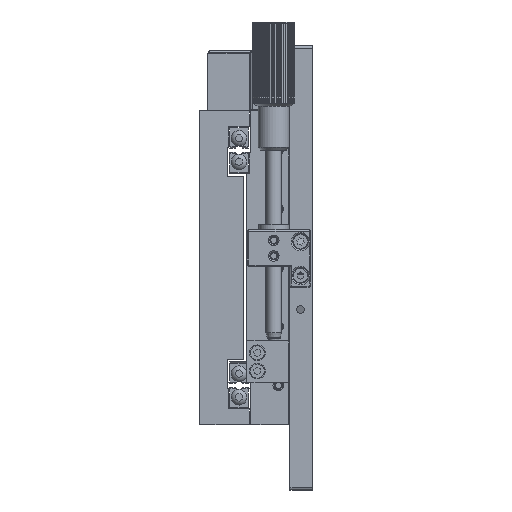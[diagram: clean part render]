
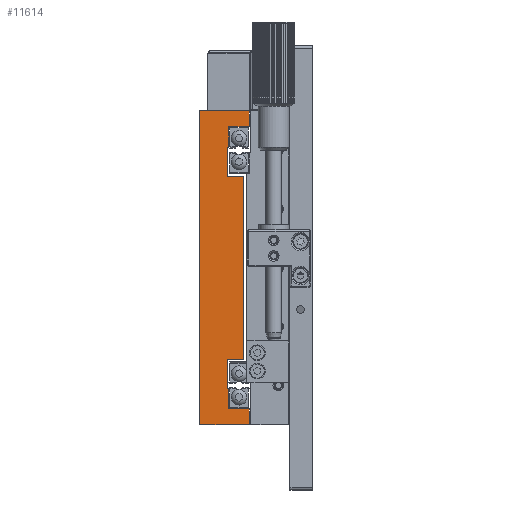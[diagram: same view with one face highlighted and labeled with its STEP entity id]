
A CAD part, left-side view. The second image highlights one B-rep face of the part: STEP entity #11614.
In plain terms, the highlighted planar face has unit normal (-1, 0, 0).
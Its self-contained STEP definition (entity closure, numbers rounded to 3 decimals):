
#4427 = CARTESIAN_POINT ( 'NONE',  ( -81.395, 9.305, -60. ) ) ;
#4440 = DIRECTION ( 'NONE',  ( 0., 0., -1. ) ) ;
#5078 = VECTOR ( 'NONE', #8464, 1000. ) ;
#5080 = LINE ( 'NONE', #8437, #5078 ) ;
#5089 = VECTOR ( 'NONE', #8427, 1000. ) ;
#5092 = VECTOR ( 'NONE', #8421, 1000. ) ;
#5093 = LINE ( 'NONE', #8422, #5089 ) ;
#5094 = LINE ( 'NONE', #8414, #5092 ) ;
#5114 = VECTOR ( 'NONE', #8371, 1000. ) ;
#5116 = VECTOR ( 'NONE', #8369, 1000. ) ;
#5117 = LINE ( 'NONE', #8370, #5114 ) ;
#5118 = VECTOR ( 'NONE', #8368, 1000. ) ;
#5120 = VECTOR ( 'NONE', #8367, 1000. ) ;
#5121 = LINE ( 'NONE', #8357, #5120 ) ;
#5122 = LINE ( 'NONE', #8344, #5118 ) ;
#5132 = LINE ( 'NONE', #8348, #5116 ) ;
#5133 = VECTOR ( 'NONE', #8332, 1000. ) ;
#5135 = LINE ( 'NONE', #8313, #5133 ) ;
#5154 = VECTOR ( 'NONE', #8284, 1000. ) ;
#5162 = LINE ( 'NONE', #8294, #5154 ) ;
#5179 = VECTOR ( 'NONE', #8244, 1000. ) ;
#5181 = LINE ( 'NONE', #8243, #5179 ) ;
#5198 = VECTOR ( 'NONE', #8208, 1000. ) ;
#5199 = VECTOR ( 'NONE', #8210, 1000. ) ;
#5201 = LINE ( 'NONE', #8199, #5198 ) ;
#5206 = LINE ( 'NONE', #8201, #5199 ) ;
#5207 = VECTOR ( 'NONE', #8138, 1000. ) ;
#5214 = LINE ( 'NONE', #8125, #5207 ) ;
#6724 = EDGE_CURVE ( 'NONE', #28070, #28067, #19128, .T. ) ;
#6754 = EDGE_CURVE ( 'NONE', #28060, #28070, #19108, .T. ) ;
#8125 = CARTESIAN_POINT ( 'NONE',  ( -81.395, 9.305, -54. ) ) ;
#8138 = DIRECTION ( 'NONE',  ( 0., 1., 0. ) ) ;
#8199 = CARTESIAN_POINT ( 'NONE',  ( -81.395, 17.805, -35. ) ) ;
#8201 = CARTESIAN_POINT ( 'NONE',  ( -81.395, 11.605, 35. ) ) ;
#8208 = DIRECTION ( 'NONE',  ( 0., -1., 0. ) ) ;
#8210 = DIRECTION ( 'NONE',  ( 0., 1., 0. ) ) ;
#8243 = CARTESIAN_POINT ( 'NONE',  ( -81.395, 17.305, -46. ) ) ;
#8244 = DIRECTION ( 'NONE',  ( 0., 1., 0. ) ) ;
#8284 = DIRECTION ( 'NONE',  ( 0., 0., 1. ) ) ;
#8294 = CARTESIAN_POINT ( 'NONE',  ( -81.395, 17.305, -54. ) ) ;
#8313 = CARTESIAN_POINT ( 'NONE',  ( -81.395, 11.605, -35. ) ) ;
#8332 = DIRECTION ( 'NONE',  ( 0., 0., 1. ) ) ;
#8344 = CARTESIAN_POINT ( 'NONE',  ( -81.395, 28.305, -60. ) ) ;
#8348 = CARTESIAN_POINT ( 'NONE',  ( -81.395, 9.305, -60. ) ) ;
#8357 = CARTESIAN_POINT ( 'NONE',  ( -81.395, 28.305, 60. ) ) ;
#8367 = DIRECTION ( 'NONE',  ( 0., -1., 0. ) ) ;
#8368 = DIRECTION ( 'NONE',  ( 0., 0., 1. ) ) ;
#8369 = DIRECTION ( 'NONE',  ( 0., 0., -1. ) ) ;
#8370 = CARTESIAN_POINT ( 'NONE',  ( -81.395, 17.305, 54. ) ) ;
#8371 = DIRECTION ( 'NONE',  ( 0., -1., 0. ) ) ;
#8414 = CARTESIAN_POINT ( 'NONE',  ( -81.395, 17.805, -46. ) ) ;
#8421 = DIRECTION ( 'NONE',  ( 0., 0., 1. ) ) ;
#8422 = CARTESIAN_POINT ( 'NONE',  ( -81.395, 28.305, -60. ) ) ;
#8427 = DIRECTION ( 'NONE',  ( 0., 1., 0. ) ) ;
#8437 = CARTESIAN_POINT ( 'NONE',  ( -81.395, 17.805, 35. ) ) ;
#8464 = DIRECTION ( 'NONE',  ( 0., 0., 1. ) ) ;
#10232 = EDGE_CURVE ( 'NONE', #28069, #27773, #18219, .T. ) ;
#10849 = AXIS2_PLACEMENT_3D ( 'NONE', #23283, #23295, #23296 ) ;
#11614 = ADVANCED_FACE ( 'NONE', ( #13063 ), #23291, .T. ) ;
#13063 = FACE_OUTER_BOUND ( 'NONE', #28142, .T. ) ;
#17524 = CARTESIAN_POINT ( 'NONE',  ( -81.395, 17.305, -46. ) ) ;
#17558 = CARTESIAN_POINT ( 'NONE',  ( -81.395, 11.605, 35. ) ) ;
#17586 = CARTESIAN_POINT ( 'NONE',  ( -81.395, 9.305, -60. ) ) ;
#17587 = CARTESIAN_POINT ( 'NONE',  ( -81.395, 28.305, 60. ) ) ;
#17589 = CARTESIAN_POINT ( 'NONE',  ( -81.395, 28.305, -60. ) ) ;
#17594 = CARTESIAN_POINT ( 'NONE',  ( -81.395, 11.605, -35. ) ) ;
#17595 = CARTESIAN_POINT ( 'NONE',  ( -81.395, 17.805, 35. ) ) ;
#17602 = CARTESIAN_POINT ( 'NONE',  ( -81.395, 17.805, -35. ) ) ;
#17678 = CARTESIAN_POINT ( 'NONE',  ( -81.395, 9.305, 60. ) ) ;
#17679 = CARTESIAN_POINT ( 'NONE',  ( -81.395, 17.805, 46. ) ) ;
#17688 = CARTESIAN_POINT ( 'NONE',  ( -81.395, 9.305, -54. ) ) ;
#17690 = CARTESIAN_POINT ( 'NONE',  ( -81.395, 17.305, -54. ) ) ;
#17693 = CARTESIAN_POINT ( 'NONE',  ( -81.395, 17.305, 54. ) ) ;
#17695 = CARTESIAN_POINT ( 'NONE',  ( -81.395, 17.305, 46. ) ) ;
#17706 = CARTESIAN_POINT ( 'NONE',  ( -81.395, 17.805, -46. ) ) ;
#17717 = CARTESIAN_POINT ( 'NONE',  ( -81.395, 9.305, 54. ) ) ;
#18215 = VECTOR ( 'NONE', #4440, 1000. ) ;
#18219 = LINE ( 'NONE', #4427, #18215 ) ;
#19090 = VECTOR ( 'NONE', #27152, 1000. ) ;
#19108 = LINE ( 'NONE', #27143, #19090 ) ;
#19113 = VECTOR ( 'NONE', #27087, 1000. ) ;
#19128 = LINE ( 'NONE', #27052, #19113 ) ;
#22428 = EDGE_CURVE ( 'NONE', #28069, #28063, #5214, .T. ) ;
#22436 = EDGE_CURVE ( 'NONE', #27789, #27781, #5201, .T. ) ;
#22437 = EDGE_CURVE ( 'NONE', #27745, #27782, #5206, .T. ) ;
#22450 = EDGE_CURVE ( 'NONE', #27711, #28081, #5181, .T. ) ;
#22469 = EDGE_CURVE ( 'NONE', #28063, #27711, #5162, .T. ) ;
#22483 = EDGE_CURVE ( 'NONE', #27781, #27745, #5135, .T. ) ;
#22494 = EDGE_CURVE ( 'NONE', #27774, #28014, #5121, .T. ) ;
#22495 = EDGE_CURVE ( 'NONE', #27776, #27774, #5122, .T. ) ;
#22496 = EDGE_CURVE ( 'NONE', #28014, #28092, #5132, .T. ) ;
#22497 = EDGE_CURVE ( 'NONE', #28067, #28092, #5117, .T. ) ;
#22514 = EDGE_CURVE ( 'NONE', #28081, #27789, #5094, .T. ) ;
#22516 = EDGE_CURVE ( 'NONE', #27773, #27776, #5093, .T. ) ;
#22528 = EDGE_CURVE ( 'NONE', #27782, #28060, #5080, .T. ) ;
#23283 = CARTESIAN_POINT ( 'NONE',  ( -81.395, 18.805, 0. ) ) ;
#23291 = PLANE ( 'NONE',  #10849 ) ;
#23295 = DIRECTION ( 'NONE',  ( -1., 0., 0. ) ) ;
#23296 = DIRECTION ( 'NONE',  ( 0., 0., -1. ) ) ;
#25213 = ORIENTED_EDGE ( 'NONE', *, *, #22516, .F. ) ;
#25214 = ORIENTED_EDGE ( 'NONE', *, *, #22495, .F. ) ;
#25215 = ORIENTED_EDGE ( 'NONE', *, *, #22494, .F. ) ;
#25216 = ORIENTED_EDGE ( 'NONE', *, *, #22496, .F. ) ;
#25217 = ORIENTED_EDGE ( 'NONE', *, *, #22497, .T. ) ;
#27052 = CARTESIAN_POINT ( 'NONE',  ( -81.395, 17.305, 46. ) ) ;
#27087 = DIRECTION ( 'NONE',  ( 0., 0., 1. ) ) ;
#27143 = CARTESIAN_POINT ( 'NONE',  ( -81.395, 17.805, 46. ) ) ;
#27152 = DIRECTION ( 'NONE',  ( 0., -1., 0. ) ) ;
#27711 = VERTEX_POINT ( 'NONE', #17524 ) ;
#27745 = VERTEX_POINT ( 'NONE', #17558 ) ;
#27773 = VERTEX_POINT ( 'NONE', #17586 ) ;
#27774 = VERTEX_POINT ( 'NONE', #17587 ) ;
#27776 = VERTEX_POINT ( 'NONE', #17589 ) ;
#27781 = VERTEX_POINT ( 'NONE', #17594 ) ;
#27782 = VERTEX_POINT ( 'NONE', #17595 ) ;
#27789 = VERTEX_POINT ( 'NONE', #17602 ) ;
#28014 = VERTEX_POINT ( 'NONE', #17678 ) ;
#28060 = VERTEX_POINT ( 'NONE', #17679 ) ;
#28063 = VERTEX_POINT ( 'NONE', #17690 ) ;
#28067 = VERTEX_POINT ( 'NONE', #17693 ) ;
#28069 = VERTEX_POINT ( 'NONE', #17688 ) ;
#28070 = VERTEX_POINT ( 'NONE', #17695 ) ;
#28081 = VERTEX_POINT ( 'NONE', #17706 ) ;
#28092 = VERTEX_POINT ( 'NONE', #17717 ) ;
#28142 = EDGE_LOOP ( 'NONE', ( #25217, #25216, #25215, #25214, #25213, #30190, #30189, #30188, #30187, #30186, #30185, #30184, #30183, #30182, #30181, #30180 ) ) ;
#30180 = ORIENTED_EDGE ( 'NONE', *, *, #6724, .T. ) ;
#30181 = ORIENTED_EDGE ( 'NONE', *, *, #6754, .T. ) ;
#30182 = ORIENTED_EDGE ( 'NONE', *, *, #22528, .T. ) ;
#30183 = ORIENTED_EDGE ( 'NONE', *, *, #22437, .T. ) ;
#30184 = ORIENTED_EDGE ( 'NONE', *, *, #22483, .T. ) ;
#30185 = ORIENTED_EDGE ( 'NONE', *, *, #22436, .T. ) ;
#30186 = ORIENTED_EDGE ( 'NONE', *, *, #22514, .T. ) ;
#30187 = ORIENTED_EDGE ( 'NONE', *, *, #22450, .T. ) ;
#30188 = ORIENTED_EDGE ( 'NONE', *, *, #22469, .T. ) ;
#30189 = ORIENTED_EDGE ( 'NONE', *, *, #22428, .T. ) ;
#30190 = ORIENTED_EDGE ( 'NONE', *, *, #10232, .F. ) ;
